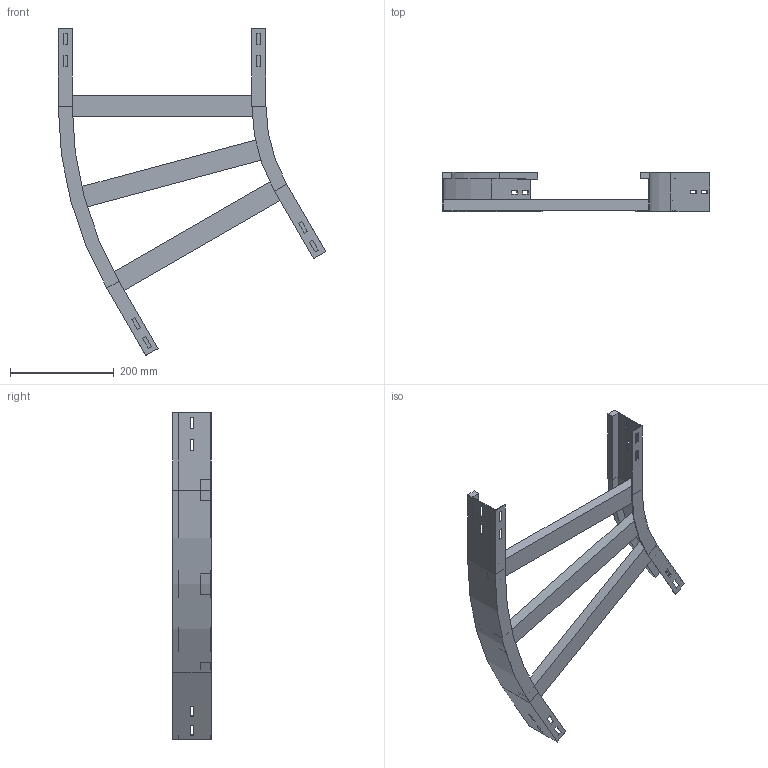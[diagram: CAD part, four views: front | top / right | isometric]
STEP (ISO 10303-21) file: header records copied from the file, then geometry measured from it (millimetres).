
FILE_DESCRIPTION (( 'STEP AP214' ), '1' );
FILE_NAME ('A2_12B3C400.step', '2025-02-21T15:10:40', ( '' ), ( '' ), 'SwSTEP 2.0', 'SolidWorks 2023', '' );
FILE_SCHEMA (( 'AUTOMOTIVE_DESIGN' ));
Length unit declared in the file: millimetre
Products named in the file (4): A2_LONGH.ESTERNO 30°_H75_R300+400; A2_12B3C400; TRAVERSINO_400; A2_LONGH.INTERNO 30°_H75_R300
Assembly tree (5 placements, depth 2):
  A2_12B3C400
    A2_LONGH.INTERNO 30°_H75_R300
    A2_LONGH.ESTERNO 30°_H75_R300+400
    TRAVERSINO_400  x3
Bounding box: 515.19 x 75 x 629.9 mm (x, y, z)
Volume: 1397802.7 mm3; surface area: 412273.3 mm2
Topology: 5 solids, 5 shells, 134 faces, 340 edges, 216 vertices
Faces by surface type: plane 126, cylinder 8
Entity records: 3821 total; most frequent: CARTESIAN_POINT 646, ORIENTED_EDGE 632, DIRECTION 592, EDGE_CURVE 316, VECTOR 300, LINE 300, VERTEX_POINT 200, EDGE_LOOP 154
